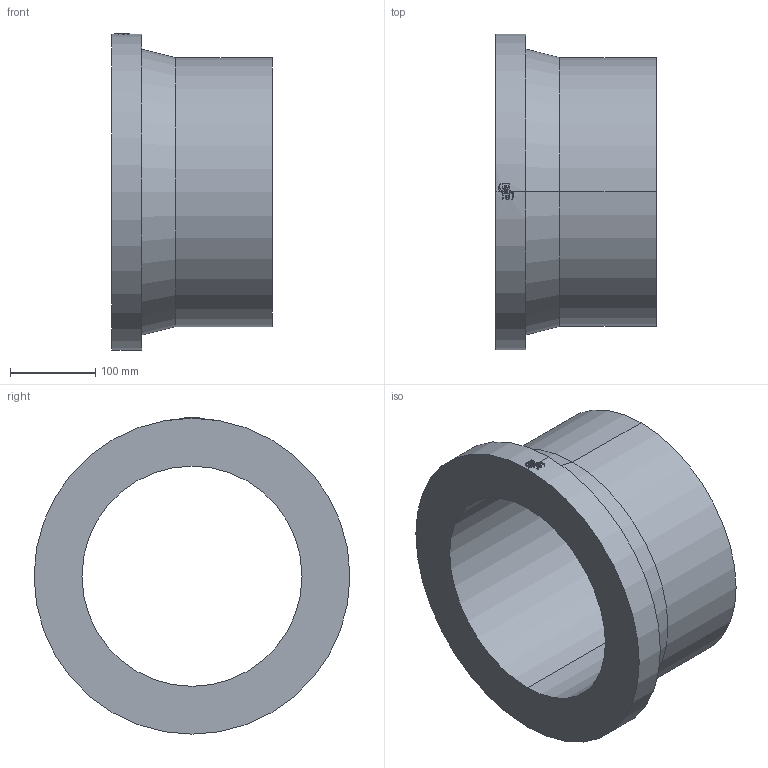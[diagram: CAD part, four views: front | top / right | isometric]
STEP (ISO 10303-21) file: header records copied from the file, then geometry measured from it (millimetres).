
FILE_DESCRIPTION (( 'STEP AP214' ), '1' );
FILE_NAME ('233523F015.STEP', '2018-07-20T09:27:33', ( '' ), ( '' ), 'SwSTEP 2.0', 'SolidWorks 2017', '' );
FILE_SCHEMA (( 'AUTOMOTIVE_DESIGN' ));
Length unit declared in the file: millimetre
Products named in the file (1): 233523F015
Bounding box: 188 x 370 x 370.5 mm (x, y, z)
Volume: 6075601.4 mm3; surface area: 447382.4 mm2
Topology: 1 solids, 1 shells, 60 faces, 154 edges, 102 vertices
Faces by surface type: cylinder 29, plane 29, cone 2
Entity records: 2924 total; most frequent: CARTESIAN_POINT 807, ORIENTED_EDGE 308, DIRECTION 282, EDGE_CURVE 154, AXIS2_PLACEMENT_3D 107, VERTEX_POINT 102, EDGE_LOOP 68, LINE 68
